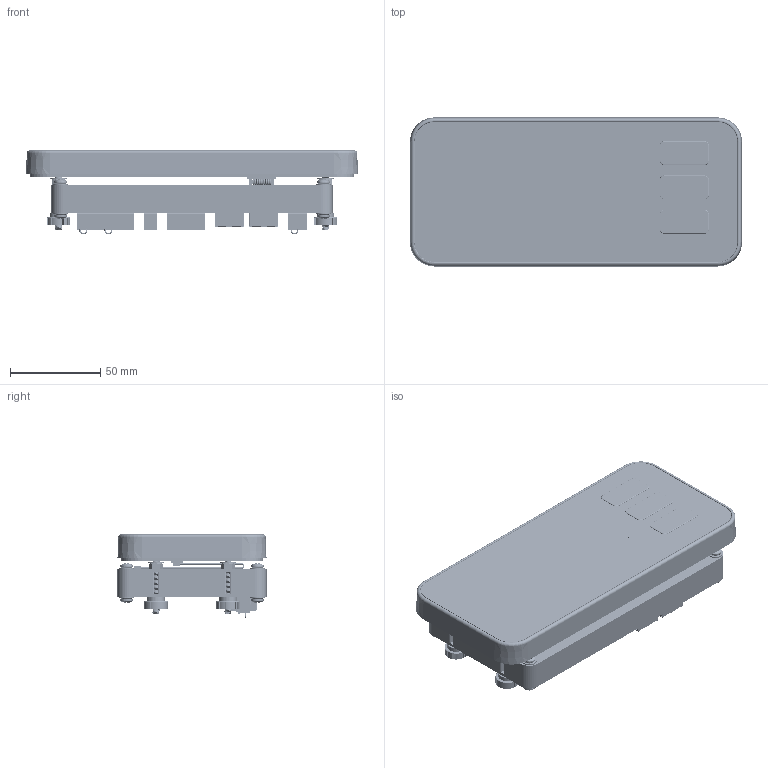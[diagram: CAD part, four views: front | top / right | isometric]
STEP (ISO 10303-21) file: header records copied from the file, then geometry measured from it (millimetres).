
FILE_DESCRIPTION (( 'STEP AP214' ), '1' );
FILE_NAME ('HI 6501-P-WP-ANA.STEP', '2024-06-17T13:15:15', ( '' ), ( '' ), 'SwSTEP 2.0', 'SolidWorks 2023', '' );
FILE_SCHEMA (( 'AUTOMOTIVE_DESIGN' ));
Length unit declared in the file: inch
Products named in the file (53): 2140-0136-06-0; 0508-0928-01-0; 2140-0136-02-0; pan cross head_am_1_B18.6.7M - M2 x 0.4 x 4 Type I Cross Recessed PHMS --4N; 0524-0039-01-0_GASKET; 0530-0897-01-0; PWA_0535-0598-XX-0_PWA_0535-0598-ANA; 2140-0153-09-0; 5111-0011-0; Samtec_TCSD-05 Connector; 0517-0138-01-0_Circuit Tail; 0508-0926-01-0; 2158-0020-0; 2140-0153-06-0; 2813-0147-0_93475A230; PWB_0534-0587-01-0; 2140-0153-02-0; 2158-0046-08-0; 6026-0003-0_3.5mm Pitch x 5mm Long; 2814-0094-0_94150A335; 0530-0884-01-0; LCD Resistive Touch Screen; 0524-0039-01-0_STIFFENER; HI 6501-P_Main Unit; 2411-0053-0_93886A230; PWB_0534-0598-01-0; 2158-0021-0; 2450-0041-0; 2158-0047-0; 2158-0035-0_Molex_541324062; 2817-0171-0_90400A214; PWA_0535-0587-XX-0; 0520-0033-L0.48; 0517-0138-01-0_REV X2; 2817-0188_90400A144; 6032-0089-L4.00_HI 6501-P; 5126-0012-0; HI6130; RGB LCD_Tail; 0524-0039-01-0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
Assembly tree (85 placements, depth 4):
  HI 6501-P-WP-ANA
    HI 6501-P_Main Unit
      0520-0033-L0.48
      0508-0926-01-0
        0508-0926-01-0
        thru-hole standoff_pmi_PEM SOS-6440-6 ---C  x4
      2817-0171-0_90400A214  x4
      2817-0188_90400A144  x8
      0530-0897-01-0
      0508-0928-01-0
      PWA_0535-0598-XX-0_PWA_0535-0598-ANA
        PWB_0534-0598-01-0
        2140-0136-03-0
        2140-0153-03-0
        6026-0003-0_3.5mm Pitch x 5mm Long  x3
        2118-0435-0  x2
        2140-0136-06-0
        2140-0153-06-0
        2140-0136-02-0
        2140-0153-02-0
        2140-0136-09-0
        2140-0153-09-0
        2118-0378-0
        2158-0046-08-0
        2158-0047-0
        5111-0011-0
        5126-0012-0
    HI6130
      0579-0034-01-0
      2450-0041-0
        RGB LCD
        LCD Resistive Touch Screen
        RGB LCD_Tail
      0517-0138-01-0_REV X2
        0517-0138-01-0_REV X2
        0517-0138-01-0_Circuit Tail
      PWA_0535-0587-XX-0
        PWB_0534-0587-01-0
        2158-0020-0
        2158-0035-0_Molex_541324062
        2118-0378-0
        2158-0021-0
      pan cross head_am_1_B18.6.7M - M2 x 0.4 x 4 Type I Cross Recessed PHMS --4N  x4
      0524-0039-01-0
        0524-0039-01-0_GASKET
        0524-0039-01-0_STIFFENER
      0530-0884-01-0
    6032-0089-L4.00_HI 6501-P
      10P_IDC Cable_1MM Pitch_Swept_HI 6501-P
      Samtec_TCSD-05 Connector  x2
    2829-0001-40MM-0_93805A634  x4
    2813-0147-0_93475A230  x4
    2814-0094-0_94150A335  x4
    2411-0053-0_93886A230  x4
Bounding box: 184.4 x 82.8 x 46.71 mm (x, y, z)
Volume: 206362 mm3; surface area: 323871.7 mm2
Topology: 394 solids, 394 shells, 27607 faces, 74813 edges, 48432 vertices
Faces by surface type: plane 17292, cylinder 5515, bspline 3582, torus 529, cone 437, sphere 252
Entity records: 686103 total; most frequent: CARTESIAN_POINT 179802, ORIENTED_EDGE 111888, DIRECTION 89138, EDGE_CURVE 55944, VECTOR 40978, LINE 40978, VERTEX_POINT 36623, AXIS2_PLACEMENT_3D 24080
